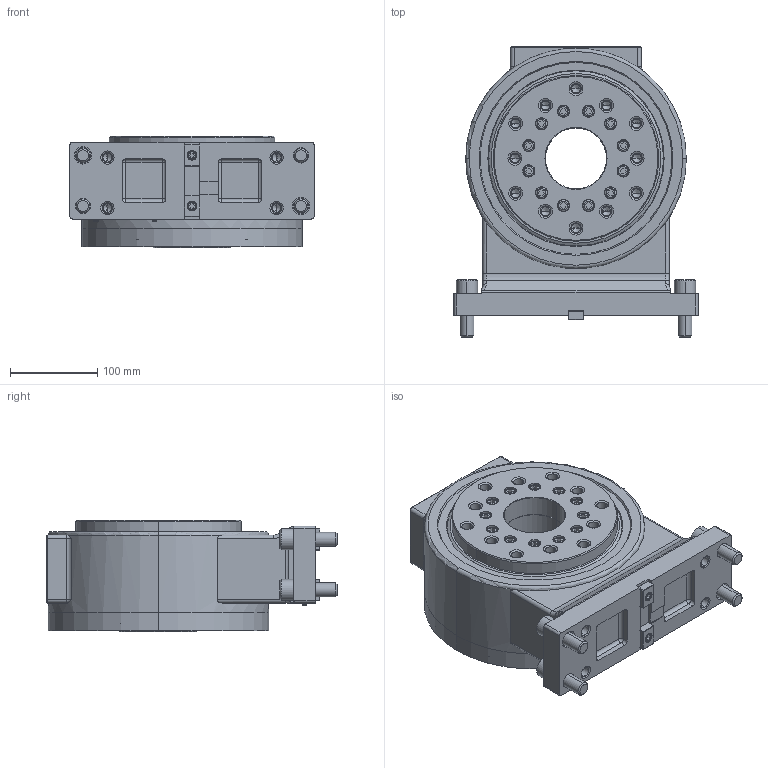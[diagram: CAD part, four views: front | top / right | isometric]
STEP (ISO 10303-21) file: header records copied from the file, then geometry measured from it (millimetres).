
FILE_DESCRIPTION (( 'STEP AP214' ), '1' );
FILE_NAME ('TSR181A.STEP', '2019-10-29T07:31:37', ( '' ), ( '' ), 'SwSTEP 2.0', 'SolidWorks 2017', '' );
FILE_SCHEMA (( 'AUTOMOTIVE_DESIGN' ));
Length unit declared in the file: millimetre
Products named in the file (8): 0030116050; TSR181Aホンタイ; ネームプレート(61E4732910); ガイドブロック(61M4197783); シリンダ(61E8229052)TSR181A; フェースプレート(61E8229031)TSR181A; ボデー(61E2711954)TSR181A; TSR181A
Assembly tree (11 placements, depth 3):
  TSR181A
    TSR181Aホンタイ
      ボデー(61E2711954)TSR181A
      フェースプレート(61E8229031)TSR181A
      シリンダ(61E8229052)TSR181A
      ガイドブロック(61M4197783)  x2
      ネームプレート(61E4732910)
    0030116050  x4
Bounding box: 280 x 333 x 128 mm (x, y, z)
Volume: 6853161 mm3; surface area: 542526.4 mm2
Topology: 10 solids, 12 shells, 2434 faces, 6392 edges, 4085 vertices
Faces by surface type: plane 1764, cylinder 356, cone 234, torus 38, bspline 26, sphere 16
Entity records: 78577 total; most frequent: CARTESIAN_POINT 13690, ORIENTED_EDGE 12024, DIRECTION 11368, EDGE_CURVE 6012, VECTOR 5072, LINE 5072, VERTEX_POINT 3912, AXIS2_PLACEMENT_3D 3148
